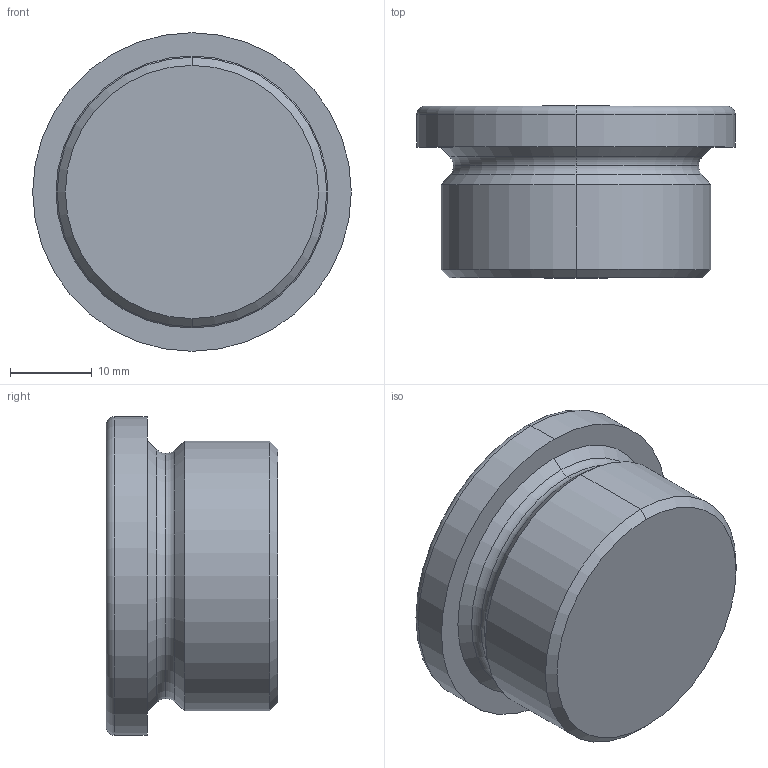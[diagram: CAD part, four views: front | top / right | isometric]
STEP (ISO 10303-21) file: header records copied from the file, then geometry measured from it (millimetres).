
FILE_DESCRIPTION (( 'STEP AP214' ), '1' );
FILE_NAME ('908-ST-M33x2-A.step', '2024-12-19T09:17:25', ( '' ), ( '' ), 'SwSTEP 2.0', 'SolidWorks 2022', '' );
FILE_SCHEMA (( 'AUTOMOTIVE_DESIGN' ));
Length unit declared in the file: millimetre
Products named in the file (1): 908-ST-M33x2-A
Bounding box: 39 x 21 x 39 mm (x, y, z)
Volume: 16909 mm3; surface area: 5145.8 mm2
Topology: 1 solids, 1 shells, 26 faces, 54 edges, 32 vertices
Faces by surface type: plane 10, torus 6, cone 6, cylinder 4
Entity records: 744 total; most frequent: DIRECTION 134, CARTESIAN_POINT 113, ORIENTED_EDGE 108, EDGE_CURVE 54, AXIS2_PLACEMENT_3D 53, VERTEX_POINT 32, EDGE_LOOP 28, VECTOR 28
